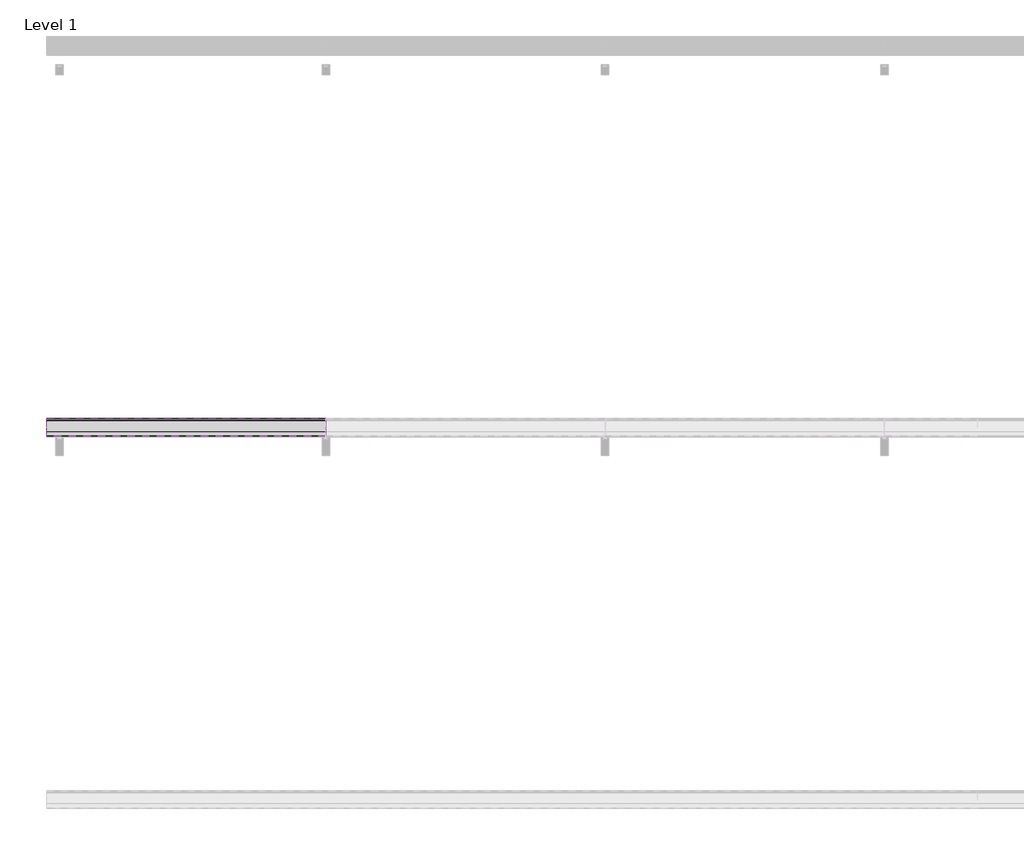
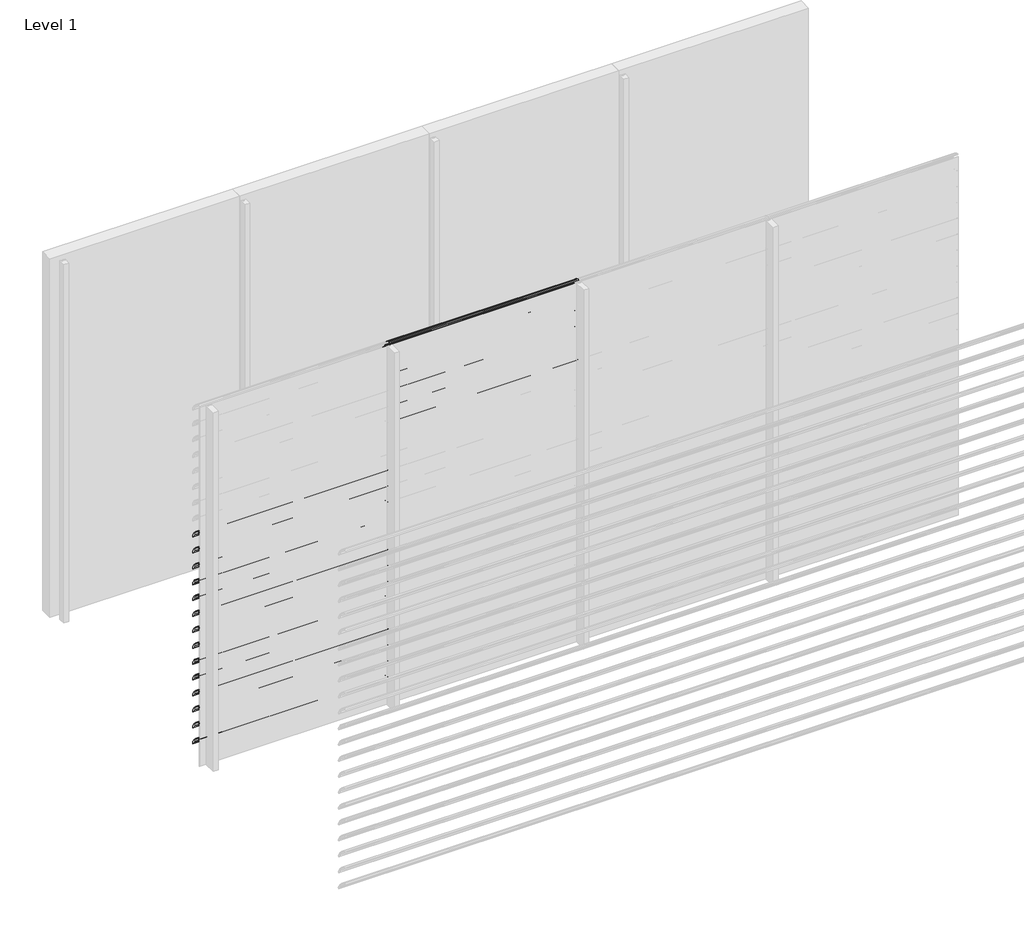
# One storey, part 21 of 57: 20 proxies.
"""IFC4 building model written with IfcOpenShell, lengths in millimetres."""

from ifc_helpers import new_model, si_unit, point, frame, frame_2d, origin, place, context, project, spatial, polyline, circle_curve, trimmed, segment, composite_curve, outline, extrude, element, save

model = new_model("IFC4")

# Units and contexts
model_context = context("Model", 3, world=origin())
ifc_project = project(units=[si_unit("LENGTHUNIT", "METRE", prefix="MILLI")], contexts=[model_context])

# Site, building, storey
site = spatial("IfcSite", under=ifc_project)
building = spatial("IfcBuilding", under=site)
storey = spatial("IfcBuildingStorey", under=building, Name="Level 1", Elevation=0.0)

# Proxies
placement = place(None, origin())
element("IfcBuildingElementProxy", 1, Name="Wall Sweeps", at=placement, inside=storey, context=model_context, shape_type="SweptSolid", body=[
    extrude(outline(composite_curve([segment(trimmed(circle_curve(frame_2d((-35993.7822526, 1952.4913792)), 4.2177474), [point((-35989.6985606, 1953.5462976))], [point((-35993.7822526, 1956.7091266))], False, "CARTESIAN"), True, "CONTINUOUS"), segment(trimmed(circle_curve(frame_2d((-36018.7150834, 1854.2536312)), 105.4456002), [point((-35993.7822526, 1956.7091266))], [point((-35971.7914298, 1948.6832099))], False, "CARTESIAN"), True, "CONTINUOUS"), segment(trimmed(circle_curve(frame_2d((-36061.7199745, 1800.0352476)), 173.7335887), [point((-35971.7914298, 1948.6832099))], [point((-35913.0720121, 1889.9637922))], False, "CARTESIAN"), True, "CONTINUOUS"), segment(trimmed(circle_curve(frame_2d((-36004.9297178, 1838.1860314)), 105.4456002), [point((-35913.0720121, 1889.9637922))], [point((-35903.6249616, 1867.4455765))], False, "CARTESIAN"), True, "CONTINUOUS"), segment(trimmed(circle_curve(frame_2d((-35907.809737, 1866.3307305)), 4.3307305), [point((-35903.6249616, 1867.4455765))], [point((-35909.0769196, 1862.189538))], False, "CARTESIAN"), True, "CONTINUOUS"), segment(polyline([(-35909.0769196, 1862.189538), (-35934.7401984, 1886.9722783)]), True, "CONTINUOUS"), segment(trimmed(circle_curve(frame_2d((-35931.3879574, 1889.2977626)), 4.079877), [point((-35934.7401984, 1886.9722783))], [point((-35930.7310597, 1893.3244091))], False, "CARTESIAN"), True, "CONTINUOUS"), segment(trimmed(circle_curve(frame_2d((-36014.6665585, 1871.2544323)), 86.7885467), [point((-35930.7310597, 1893.3244091))], [point((-35942.3028351, 1919.1683485))], True, "CARTESIAN"), True, "CONTINUOUS"), segment(polyline([(-35942.3028351, 1919.1683485), (-35940.7230099, 1921.9046861)]), True, "CONTINUOUS"), segment(trimmed(circle_curve(frame_2d((-36061.7199745, 1800.0352476)), 171.7335887), [point((-35940.7230099, 1921.9046861))], [point((-35972.7555872, 1946.9289618))], True, "CARTESIAN"), True, "CONTINUOUS"), segment(trimmed(circle_curve(frame_2d((-36018.7150834, 1854.2536312)), 103.4456002), [point((-35972.7555872, 1946.9289618))], [point((-35989.6985606, 1953.5462976))], True, "CARTESIAN"), True, "CONTINUOUS")], self_intersect=False)), frame((0.0, 0.0, 0.0), z_axis=(1.0, 0.0, 0.0), x_axis=(0.0, 1.0, 0.0)), (0.0, 0.0, 1.0), 1500.0),
])
element("IfcBuildingElementProxy", 2, Name="Wall Sweeps", at=placement, inside=storey, context=model_context, shape_type="SweptSolid", body=[
    extrude(outline(composite_curve([segment(trimmed(circle_curve(frame_2d((-35993.7822526, 1819.4913792)), 4.2177474), [point((-35989.6985606, 1820.5462976))], [point((-35993.7822526, 1823.7091266))], False, "CARTESIAN"), True, "CONTINUOUS"), segment(trimmed(circle_curve(frame_2d((-36018.7150834, 1721.2536312)), 105.4456002), [point((-35993.7822526, 1823.7091266))], [point((-35971.7914298, 1815.6832099))], False, "CARTESIAN"), True, "CONTINUOUS"), segment(trimmed(circle_curve(frame_2d((-36061.7199745, 1667.0352476)), 173.7335887), [point((-35971.7914298, 1815.6832099))], [point((-35913.0720121, 1756.9637922))], False, "CARTESIAN"), True, "CONTINUOUS"), segment(trimmed(circle_curve(frame_2d((-36004.9297178, 1705.1860314)), 105.4456002), [point((-35913.0720121, 1756.9637922))], [point((-35903.6249616, 1734.4455765))], False, "CARTESIAN"), True, "CONTINUOUS"), segment(trimmed(circle_curve(frame_2d((-35907.809737, 1733.3307305)), 4.3307305), [point((-35903.6249616, 1734.4455765))], [point((-35909.0769196, 1729.189538))], False, "CARTESIAN"), True, "CONTINUOUS"), segment(polyline([(-35909.0769196, 1729.189538), (-35934.7401984, 1753.9722783)]), True, "CONTINUOUS"), segment(trimmed(circle_curve(frame_2d((-35931.3879574, 1756.2977626)), 4.079877), [point((-35934.7401984, 1753.9722783))], [point((-35930.7310597, 1760.3244091))], False, "CARTESIAN"), True, "CONTINUOUS"), segment(trimmed(circle_curve(frame_2d((-36014.6665585, 1738.2544323)), 86.7885467), [point((-35930.7310597, 1760.3244091))], [point((-35942.3028351, 1786.1683485))], True, "CARTESIAN"), True, "CONTINUOUS"), segment(polyline([(-35942.3028351, 1786.1683485), (-35940.7230099, 1788.9046861)]), True, "CONTINUOUS"), segment(trimmed(circle_curve(frame_2d((-36061.7199745, 1667.0352476)), 171.7335887), [point((-35940.7230099, 1788.9046861))], [point((-35972.7555872, 1813.9289618))], True, "CARTESIAN"), True, "CONTINUOUS"), segment(trimmed(circle_curve(frame_2d((-36018.7150834, 1721.2536312)), 103.4456002), [point((-35972.7555872, 1813.9289618))], [point((-35989.6985606, 1820.5462976))], True, "CARTESIAN"), True, "CONTINUOUS")], self_intersect=False)), frame((0.0, 0.0, 0.0), z_axis=(1.0, 0.0, 0.0), x_axis=(0.0, 1.0, 0.0)), (0.0, 0.0, 1.0), 1500.0),
])
element("IfcBuildingElementProxy", 3, Name="Wall Sweeps", at=placement, inside=storey, context=model_context, shape_type="SweptSolid", body=[
    extrude(outline(composite_curve([segment(trimmed(circle_curve(frame_2d((-35993.7822526, 1686.4913792)), 4.2177474), [point((-35989.6985606, 1687.5462976))], [point((-35993.7822526, 1690.7091266))], False, "CARTESIAN"), True, "CONTINUOUS"), segment(trimmed(circle_curve(frame_2d((-36018.7150834, 1588.2536312)), 105.4456002), [point((-35993.7822526, 1690.7091266))], [point((-35971.7914298, 1682.6832099))], False, "CARTESIAN"), True, "CONTINUOUS"), segment(trimmed(circle_curve(frame_2d((-36061.7199745, 1534.0352476)), 173.7335887), [point((-35971.7914298, 1682.6832099))], [point((-35913.0720121, 1623.9637922))], False, "CARTESIAN"), True, "CONTINUOUS"), segment(trimmed(circle_curve(frame_2d((-36004.9297178, 1572.1860314)), 105.4456002), [point((-35913.0720121, 1623.9637922))], [point((-35903.6249616, 1601.4455765))], False, "CARTESIAN"), True, "CONTINUOUS"), segment(trimmed(circle_curve(frame_2d((-35907.809737, 1600.3307305)), 4.3307305), [point((-35903.6249616, 1601.4455765))], [point((-35909.0769196, 1596.189538))], False, "CARTESIAN"), True, "CONTINUOUS"), segment(polyline([(-35909.0769196, 1596.189538), (-35934.7401984, 1620.9722783)]), True, "CONTINUOUS"), segment(trimmed(circle_curve(frame_2d((-35931.3879574, 1623.2977626)), 4.079877), [point((-35934.7401984, 1620.9722783))], [point((-35930.7310597, 1627.3244091))], False, "CARTESIAN"), True, "CONTINUOUS"), segment(trimmed(circle_curve(frame_2d((-36014.6665585, 1605.2544323)), 86.7885467), [point((-35930.7310597, 1627.3244091))], [point((-35942.3028351, 1653.1683485))], True, "CARTESIAN"), True, "CONTINUOUS"), segment(polyline([(-35942.3028351, 1653.1683485), (-35940.7230099, 1655.9046861)]), True, "CONTINUOUS"), segment(trimmed(circle_curve(frame_2d((-36061.7199745, 1534.0352476)), 171.7335887), [point((-35940.7230099, 1655.9046861))], [point((-35972.7555872, 1680.9289618))], True, "CARTESIAN"), True, "CONTINUOUS"), segment(trimmed(circle_curve(frame_2d((-36018.7150834, 1588.2536312)), 103.4456002), [point((-35972.7555872, 1680.9289618))], [point((-35989.6985606, 1687.5462976))], True, "CARTESIAN"), True, "CONTINUOUS")], self_intersect=False)), frame((0.0, 0.0, 0.0), z_axis=(1.0, 0.0, 0.0), x_axis=(0.0, 1.0, 0.0)), (0.0, 0.0, 1.0), 1500.0),
])
element("IfcBuildingElementProxy", 4, Name="Wall Sweeps", at=placement, inside=storey, context=model_context, shape_type="SweptSolid", body=[
    extrude(outline(composite_curve([segment(trimmed(circle_curve(frame_2d((-35993.7822526, 1553.4913792)), 4.2177474), [point((-35989.6985606, 1554.5462976))], [point((-35993.7822526, 1557.7091266))], False, "CARTESIAN"), True, "CONTINUOUS"), segment(trimmed(circle_curve(frame_2d((-36018.7150834, 1455.2536312)), 105.4456002), [point((-35993.7822526, 1557.7091266))], [point((-35971.7914298, 1549.6832099))], False, "CARTESIAN"), True, "CONTINUOUS"), segment(trimmed(circle_curve(frame_2d((-36061.7199745, 1401.0352476)), 173.7335887), [point((-35971.7914298, 1549.6832099))], [point((-35913.0720121, 1490.9637922))], False, "CARTESIAN"), True, "CONTINUOUS"), segment(trimmed(circle_curve(frame_2d((-36004.9297178, 1439.1860314)), 105.4456002), [point((-35913.0720121, 1490.9637922))], [point((-35903.6249616, 1468.4455765))], False, "CARTESIAN"), True, "CONTINUOUS"), segment(trimmed(circle_curve(frame_2d((-35907.809737, 1467.3307305)), 4.3307305), [point((-35903.6249616, 1468.4455765))], [point((-35909.0769196, 1463.189538))], False, "CARTESIAN"), True, "CONTINUOUS"), segment(polyline([(-35909.0769196, 1463.189538), (-35934.7401984, 1487.9722783)]), True, "CONTINUOUS"), segment(trimmed(circle_curve(frame_2d((-35931.3879574, 1490.2977626)), 4.079877), [point((-35934.7401984, 1487.9722783))], [point((-35930.7310597, 1494.3244091))], False, "CARTESIAN"), True, "CONTINUOUS"), segment(trimmed(circle_curve(frame_2d((-36014.6665585, 1472.2544323)), 86.7885467), [point((-35930.7310597, 1494.3244091))], [point((-35942.3028351, 1520.1683485))], True, "CARTESIAN"), True, "CONTINUOUS"), segment(polyline([(-35942.3028351, 1520.1683485), (-35940.7230099, 1522.9046861)]), True, "CONTINUOUS"), segment(trimmed(circle_curve(frame_2d((-36061.7199745, 1401.0352476)), 171.7335887), [point((-35940.7230099, 1522.9046861))], [point((-35972.7555872, 1547.9289618))], True, "CARTESIAN"), True, "CONTINUOUS"), segment(trimmed(circle_curve(frame_2d((-36018.7150834, 1455.2536312)), 103.4456002), [point((-35972.7555872, 1547.9289618))], [point((-35989.6985606, 1554.5462976))], True, "CARTESIAN"), True, "CONTINUOUS")], self_intersect=False)), frame((0.0, 0.0, 0.0), z_axis=(1.0, 0.0, 0.0), x_axis=(0.0, 1.0, 0.0)), (0.0, 0.0, 1.0), 1500.0),
])
element("IfcBuildingElementProxy", 5, Name="Wall Sweeps", at=placement, inside=storey, context=model_context, shape_type="SweptSolid", body=[
    extrude(outline(composite_curve([segment(trimmed(circle_curve(frame_2d((-35993.7822526, 1420.4913792)), 4.2177474), [point((-35989.6985606, 1421.5462976))], [point((-35993.7822526, 1424.7091266))], False, "CARTESIAN"), True, "CONTINUOUS"), segment(trimmed(circle_curve(frame_2d((-36018.7150834, 1322.2536312)), 105.4456002), [point((-35993.7822526, 1424.7091266))], [point((-35971.7914298, 1416.6832099))], False, "CARTESIAN"), True, "CONTINUOUS"), segment(trimmed(circle_curve(frame_2d((-36061.7199745, 1268.0352476)), 173.7335887), [point((-35971.7914298, 1416.6832099))], [point((-35913.0720121, 1357.9637922))], False, "CARTESIAN"), True, "CONTINUOUS"), segment(trimmed(circle_curve(frame_2d((-36004.9297178, 1306.1860314)), 105.4456002), [point((-35913.0720121, 1357.9637922))], [point((-35903.6249616, 1335.4455765))], False, "CARTESIAN"), True, "CONTINUOUS"), segment(trimmed(circle_curve(frame_2d((-35907.809737, 1334.3307305)), 4.3307305), [point((-35903.6249616, 1335.4455765))], [point((-35909.0769196, 1330.189538))], False, "CARTESIAN"), True, "CONTINUOUS"), segment(polyline([(-35909.0769196, 1330.189538), (-35934.7401984, 1354.9722783)]), True, "CONTINUOUS"), segment(trimmed(circle_curve(frame_2d((-35931.3879574, 1357.2977626)), 4.079877), [point((-35934.7401984, 1354.9722783))], [point((-35930.7310597, 1361.3244091))], False, "CARTESIAN"), True, "CONTINUOUS"), segment(trimmed(circle_curve(frame_2d((-36014.6665585, 1339.2544323)), 86.7885467), [point((-35930.7310597, 1361.3244091))], [point((-35942.3028351, 1387.1683485))], True, "CARTESIAN"), True, "CONTINUOUS"), segment(polyline([(-35942.3028351, 1387.1683485), (-35940.7230099, 1389.9046861)]), True, "CONTINUOUS"), segment(trimmed(circle_curve(frame_2d((-36061.7199745, 1268.0352476)), 171.7335887), [point((-35940.7230099, 1389.9046861))], [point((-35972.7555872, 1414.9289618))], True, "CARTESIAN"), True, "CONTINUOUS"), segment(trimmed(circle_curve(frame_2d((-36018.7150834, 1322.2536312)), 103.4456002), [point((-35972.7555872, 1414.9289618))], [point((-35989.6985606, 1421.5462976))], True, "CARTESIAN"), True, "CONTINUOUS")], self_intersect=False)), frame((0.0, 0.0, 0.0), z_axis=(1.0, 0.0, 0.0), x_axis=(0.0, 1.0, 0.0)), (0.0, 0.0, 1.0), 1500.0),
])
element("IfcBuildingElementProxy", 6, Name="Wall Sweeps", at=placement, inside=storey, context=model_context, shape_type="SweptSolid", body=[
    extrude(outline(composite_curve([segment(trimmed(circle_curve(frame_2d((-35993.7822526, 1287.4913792)), 4.2177474), [point((-35989.6985606, 1288.5462976))], [point((-35993.7822526, 1291.7091266))], False, "CARTESIAN"), True, "CONTINUOUS"), segment(trimmed(circle_curve(frame_2d((-36018.7150834, 1189.2536312)), 105.4456002), [point((-35993.7822526, 1291.7091266))], [point((-35971.7914298, 1283.6832099))], False, "CARTESIAN"), True, "CONTINUOUS"), segment(trimmed(circle_curve(frame_2d((-36061.7199745, 1135.0352476)), 173.7335887), [point((-35971.7914298, 1283.6832099))], [point((-35913.0720121, 1224.9637922))], False, "CARTESIAN"), True, "CONTINUOUS"), segment(trimmed(circle_curve(frame_2d((-36004.9297178, 1173.1860314)), 105.4456002), [point((-35913.0720121, 1224.9637922))], [point((-35903.6249616, 1202.4455765))], False, "CARTESIAN"), True, "CONTINUOUS"), segment(trimmed(circle_curve(frame_2d((-35907.809737, 1201.3307305)), 4.3307305), [point((-35903.6249616, 1202.4455765))], [point((-35909.0769196, 1197.189538))], False, "CARTESIAN"), True, "CONTINUOUS"), segment(polyline([(-35909.0769196, 1197.189538), (-35934.7401984, 1221.9722783)]), True, "CONTINUOUS"), segment(trimmed(circle_curve(frame_2d((-35931.3879574, 1224.2977626)), 4.079877), [point((-35934.7401984, 1221.9722783))], [point((-35930.7310597, 1228.3244091))], False, "CARTESIAN"), True, "CONTINUOUS"), segment(trimmed(circle_curve(frame_2d((-36014.6665585, 1206.2544323)), 86.7885467), [point((-35930.7310597, 1228.3244091))], [point((-35942.3028351, 1254.1683485))], True, "CARTESIAN"), True, "CONTINUOUS"), segment(polyline([(-35942.3028351, 1254.1683485), (-35940.7230099, 1256.9046861)]), True, "CONTINUOUS"), segment(trimmed(circle_curve(frame_2d((-36061.7199745, 1135.0352476)), 171.7335887), [point((-35940.7230099, 1256.9046861))], [point((-35972.7555872, 1281.9289618))], True, "CARTESIAN"), True, "CONTINUOUS"), segment(trimmed(circle_curve(frame_2d((-36018.7150834, 1189.2536312)), 103.4456002), [point((-35972.7555872, 1281.9289618))], [point((-35989.6985606, 1288.5462976))], True, "CARTESIAN"), True, "CONTINUOUS")], self_intersect=False)), frame((0.0, 0.0, 0.0), z_axis=(1.0, 0.0, 0.0), x_axis=(0.0, 1.0, 0.0)), (0.0, 0.0, 1.0), 1500.0),
])
element("IfcBuildingElementProxy", 7, Name="Wall Sweeps", at=placement, inside=storey, context=model_context, shape_type="SweptSolid", body=[
    extrude(outline(composite_curve([segment(trimmed(circle_curve(frame_2d((-35993.7822526, 1154.4913792)), 4.2177474), [point((-35989.6985606, 1155.5462976))], [point((-35993.7822526, 1158.7091266))], False, "CARTESIAN"), True, "CONTINUOUS"), segment(trimmed(circle_curve(frame_2d((-36018.7150834, 1056.2536312)), 105.4456002), [point((-35993.7822526, 1158.7091266))], [point((-35971.7914298, 1150.6832099))], False, "CARTESIAN"), True, "CONTINUOUS"), segment(trimmed(circle_curve(frame_2d((-36061.7199745, 1002.0352476)), 173.7335887), [point((-35971.7914298, 1150.6832099))], [point((-35913.0720121, 1091.9637922))], False, "CARTESIAN"), True, "CONTINUOUS"), segment(trimmed(circle_curve(frame_2d((-36004.9297178, 1040.1860314)), 105.4456002), [point((-35913.0720121, 1091.9637922))], [point((-35903.6249616, 1069.4455765))], False, "CARTESIAN"), True, "CONTINUOUS"), segment(trimmed(circle_curve(frame_2d((-35907.809737, 1068.3307305)), 4.3307305), [point((-35903.6249616, 1069.4455765))], [point((-35909.0769196, 1064.189538))], False, "CARTESIAN"), True, "CONTINUOUS"), segment(polyline([(-35909.0769196, 1064.189538), (-35934.7401984, 1088.9722783)]), True, "CONTINUOUS"), segment(trimmed(circle_curve(frame_2d((-35931.3879574, 1091.2977626)), 4.079877), [point((-35934.7401984, 1088.9722783))], [point((-35930.7310597, 1095.3244091))], False, "CARTESIAN"), True, "CONTINUOUS"), segment(trimmed(circle_curve(frame_2d((-36014.6665585, 1073.2544323)), 86.7885467), [point((-35930.7310597, 1095.3244091))], [point((-35942.3028351, 1121.1683485))], True, "CARTESIAN"), True, "CONTINUOUS"), segment(polyline([(-35942.3028351, 1121.1683485), (-35940.7230099, 1123.9046861)]), True, "CONTINUOUS"), segment(trimmed(circle_curve(frame_2d((-36061.7199745, 1002.0352476)), 171.7335887), [point((-35940.7230099, 1123.9046861))], [point((-35972.7555872, 1148.9289618))], True, "CARTESIAN"), True, "CONTINUOUS"), segment(trimmed(circle_curve(frame_2d((-36018.7150834, 1056.2536312)), 103.4456002), [point((-35972.7555872, 1148.9289618))], [point((-35989.6985606, 1155.5462976))], True, "CARTESIAN"), True, "CONTINUOUS")], self_intersect=False)), frame((0.0, 0.0, 0.0), z_axis=(1.0, 0.0, 0.0), x_axis=(0.0, 1.0, 0.0)), (0.0, 0.0, 1.0), 1500.0),
])
element("IfcBuildingElementProxy", 8, Name="Wall Sweeps", at=placement, inside=storey, context=model_context, shape_type="SweptSolid", body=[
    extrude(outline(composite_curve([segment(trimmed(circle_curve(frame_2d((-35993.7822526, 1021.4913792)), 4.2177474), [point((-35989.6985606, 1022.5462976))], [point((-35993.7822526, 1025.7091266))], False, "CARTESIAN"), True, "CONTINUOUS"), segment(trimmed(circle_curve(frame_2d((-36018.7150834, 923.2536312)), 105.4456002), [point((-35993.7822526, 1025.7091266))], [point((-35971.7914298, 1017.6832099))], False, "CARTESIAN"), True, "CONTINUOUS"), segment(trimmed(circle_curve(frame_2d((-36061.7199745, 869.0352476)), 173.7335887), [point((-35971.7914298, 1017.6832099))], [point((-35913.0720121, 958.9637922))], False, "CARTESIAN"), True, "CONTINUOUS"), segment(trimmed(circle_curve(frame_2d((-36004.9297178, 907.1860314)), 105.4456002), [point((-35913.0720121, 958.9637922))], [point((-35903.6249616, 936.4455765))], False, "CARTESIAN"), True, "CONTINUOUS"), segment(trimmed(circle_curve(frame_2d((-35907.809737, 935.3307305)), 4.3307305), [point((-35903.6249616, 936.4455765))], [point((-35909.0769196, 931.189538))], False, "CARTESIAN"), True, "CONTINUOUS"), segment(polyline([(-35909.0769196, 931.189538), (-35934.7401984, 955.9722783)]), True, "CONTINUOUS"), segment(trimmed(circle_curve(frame_2d((-35931.3879574, 958.2977626)), 4.079877), [point((-35934.7401984, 955.9722783))], [point((-35930.7310597, 962.3244091))], False, "CARTESIAN"), True, "CONTINUOUS"), segment(trimmed(circle_curve(frame_2d((-36014.6665585, 940.2544323)), 86.7885467), [point((-35930.7310597, 962.3244091))], [point((-35942.3028351, 988.1683485))], True, "CARTESIAN"), True, "CONTINUOUS"), segment(polyline([(-35942.3028351, 988.1683485), (-35940.7230099, 990.9046861)]), True, "CONTINUOUS"), segment(trimmed(circle_curve(frame_2d((-36061.7199745, 869.0352476)), 171.7335887), [point((-35940.7230099, 990.9046861))], [point((-35972.7555872, 1015.9289618))], True, "CARTESIAN"), True, "CONTINUOUS"), segment(trimmed(circle_curve(frame_2d((-36018.7150834, 923.2536312)), 103.4456002), [point((-35972.7555872, 1015.9289618))], [point((-35989.6985606, 1022.5462976))], True, "CARTESIAN"), True, "CONTINUOUS")], self_intersect=False)), frame((0.0, 0.0, 0.0), z_axis=(1.0, 0.0, 0.0), x_axis=(0.0, 1.0, 0.0)), (0.0, 0.0, 1.0), 1500.0),
])
element("IfcBuildingElementProxy", 9, Name="Wall Sweeps", at=placement, inside=storey, context=model_context, shape_type="SweptSolid", body=[
    extrude(outline(composite_curve([segment(trimmed(circle_curve(frame_2d((-35993.7822526, 888.4913792)), 4.2177474), [point((-35989.6985606, 889.5462976))], [point((-35993.7822526, 892.7091266))], False, "CARTESIAN"), True, "CONTINUOUS"), segment(trimmed(circle_curve(frame_2d((-36018.7150834, 790.2536312)), 105.4456002), [point((-35993.7822526, 892.7091266))], [point((-35971.7914298, 884.6832099))], False, "CARTESIAN"), True, "CONTINUOUS"), segment(trimmed(circle_curve(frame_2d((-36061.7199745, 736.0352476)), 173.7335887), [point((-35971.7914298, 884.6832099))], [point((-35913.0720121, 825.9637922))], False, "CARTESIAN"), True, "CONTINUOUS"), segment(trimmed(circle_curve(frame_2d((-36004.9297178, 774.1860314)), 105.4456002), [point((-35913.0720121, 825.9637922))], [point((-35903.6249616, 803.4455765))], False, "CARTESIAN"), True, "CONTINUOUS"), segment(trimmed(circle_curve(frame_2d((-35907.809737, 802.3307305)), 4.3307305), [point((-35903.6249616, 803.4455765))], [point((-35909.0769196, 798.189538))], False, "CARTESIAN"), True, "CONTINUOUS"), segment(polyline([(-35909.0769196, 798.189538), (-35934.7401984, 822.9722783)]), True, "CONTINUOUS"), segment(trimmed(circle_curve(frame_2d((-35931.3879574, 825.2977626)), 4.079877), [point((-35934.7401984, 822.9722783))], [point((-35930.7310597, 829.3244091))], False, "CARTESIAN"), True, "CONTINUOUS"), segment(trimmed(circle_curve(frame_2d((-36014.6665585, 807.2544323)), 86.7885467), [point((-35930.7310597, 829.3244091))], [point((-35942.3028351, 855.1683485))], True, "CARTESIAN"), True, "CONTINUOUS"), segment(polyline([(-35942.3028351, 855.1683485), (-35940.7230099, 857.9046861)]), True, "CONTINUOUS"), segment(trimmed(circle_curve(frame_2d((-36061.7199745, 736.0352476)), 171.7335887), [point((-35940.7230099, 857.9046861))], [point((-35972.7555872, 882.9289618))], True, "CARTESIAN"), True, "CONTINUOUS"), segment(trimmed(circle_curve(frame_2d((-36018.7150834, 790.2536312)), 103.4456002), [point((-35972.7555872, 882.9289618))], [point((-35989.6985606, 889.5462976))], True, "CARTESIAN"), True, "CONTINUOUS")], self_intersect=False)), frame((0.0, 0.0, 0.0), z_axis=(1.0, 0.0, 0.0), x_axis=(0.0, 1.0, 0.0)), (0.0, 0.0, 1.0), 1500.0),
])
element("IfcBuildingElementProxy", 10, Name="Wall Sweeps", at=placement, inside=storey, context=model_context, shape_type="SweptSolid", body=[
    extrude(outline(composite_curve([segment(trimmed(circle_curve(frame_2d((-35993.7822526, 755.4913792)), 4.2177474), [point((-35989.6985606, 756.5462976))], [point((-35993.7822526, 759.7091266))], False, "CARTESIAN"), True, "CONTINUOUS"), segment(trimmed(circle_curve(frame_2d((-36018.7150834, 657.2536312)), 105.4456002), [point((-35993.7822526, 759.7091266))], [point((-35971.7914298, 751.6832099))], False, "CARTESIAN"), True, "CONTINUOUS"), segment(trimmed(circle_curve(frame_2d((-36061.7199745, 603.0352476)), 173.7335887), [point((-35971.7914298, 751.6832099))], [point((-35913.0720121, 692.9637922))], False, "CARTESIAN"), True, "CONTINUOUS"), segment(trimmed(circle_curve(frame_2d((-36004.9297178, 641.1860314)), 105.4456002), [point((-35913.0720121, 692.9637922))], [point((-35903.6249616, 670.4455765))], False, "CARTESIAN"), True, "CONTINUOUS"), segment(trimmed(circle_curve(frame_2d((-35907.809737, 669.3307305)), 4.3307305), [point((-35903.6249616, 670.4455765))], [point((-35909.0769196, 665.189538))], False, "CARTESIAN"), True, "CONTINUOUS"), segment(polyline([(-35909.0769196, 665.189538), (-35934.7401984, 689.9722783)]), True, "CONTINUOUS"), segment(trimmed(circle_curve(frame_2d((-35931.3879574, 692.2977626)), 4.079877), [point((-35934.7401984, 689.9722783))], [point((-35930.7310597, 696.3244091))], False, "CARTESIAN"), True, "CONTINUOUS"), segment(trimmed(circle_curve(frame_2d((-36014.6665585, 674.2544323)), 86.7885467), [point((-35930.7310597, 696.3244091))], [point((-35942.3028351, 722.1683485))], True, "CARTESIAN"), True, "CONTINUOUS"), segment(polyline([(-35942.3028351, 722.1683485), (-35940.7230099, 724.9046861)]), True, "CONTINUOUS"), segment(trimmed(circle_curve(frame_2d((-36061.7199745, 603.0352476)), 171.7335887), [point((-35940.7230099, 724.9046861))], [point((-35972.7555872, 749.9289618))], True, "CARTESIAN"), True, "CONTINUOUS"), segment(trimmed(circle_curve(frame_2d((-36018.7150834, 657.2536312)), 103.4456002), [point((-35972.7555872, 749.9289618))], [point((-35989.6985606, 756.5462976))], True, "CARTESIAN"), True, "CONTINUOUS")], self_intersect=False)), frame((0.0, 0.0, 0.0), z_axis=(1.0, 0.0, 0.0), x_axis=(0.0, 1.0, 0.0)), (0.0, 0.0, 1.0), 1500.0),
])
element("IfcBuildingElementProxy", 11, Name="Wall Sweeps", at=placement, inside=storey, context=model_context, shape_type="SweptSolid", body=[
    extrude(outline(composite_curve([segment(trimmed(circle_curve(frame_2d((-35993.7822526, 622.4913792)), 4.2177474), [point((-35989.6985606, 623.5462976))], [point((-35993.7822526, 626.7091266))], False, "CARTESIAN"), True, "CONTINUOUS"), segment(trimmed(circle_curve(frame_2d((-36018.7150834, 524.2536312)), 105.4456002), [point((-35993.7822526, 626.7091266))], [point((-35971.7914298, 618.6832099))], False, "CARTESIAN"), True, "CONTINUOUS"), segment(trimmed(circle_curve(frame_2d((-36061.7199745, 470.0352476)), 173.7335887), [point((-35971.7914298, 618.6832099))], [point((-35913.0720121, 559.9637922))], False, "CARTESIAN"), True, "CONTINUOUS"), segment(trimmed(circle_curve(frame_2d((-36004.9297178, 508.1860314)), 105.4456002), [point((-35913.0720121, 559.9637922))], [point((-35903.6249616, 537.4455765))], False, "CARTESIAN"), True, "CONTINUOUS"), segment(trimmed(circle_curve(frame_2d((-35907.809737, 536.3307305)), 4.3307305), [point((-35903.6249616, 537.4455765))], [point((-35909.0769196, 532.189538))], False, "CARTESIAN"), True, "CONTINUOUS"), segment(polyline([(-35909.0769196, 532.189538), (-35934.7401984, 556.9722783)]), True, "CONTINUOUS"), segment(trimmed(circle_curve(frame_2d((-35931.3879574, 559.2977626)), 4.079877), [point((-35934.7401984, 556.9722783))], [point((-35930.7310597, 563.3244091))], False, "CARTESIAN"), True, "CONTINUOUS"), segment(trimmed(circle_curve(frame_2d((-36014.6665585, 541.2544323)), 86.7885467), [point((-35930.7310597, 563.3244091))], [point((-35942.3028351, 589.1683485))], True, "CARTESIAN"), True, "CONTINUOUS"), segment(polyline([(-35942.3028351, 589.1683485), (-35940.7230099, 591.9046861)]), True, "CONTINUOUS"), segment(trimmed(circle_curve(frame_2d((-36061.7199745, 470.0352476)), 171.7335887), [point((-35940.7230099, 591.9046861))], [point((-35972.7555872, 616.9289618))], True, "CARTESIAN"), True, "CONTINUOUS"), segment(trimmed(circle_curve(frame_2d((-36018.7150834, 524.2536312)), 103.4456002), [point((-35972.7555872, 616.9289618))], [point((-35989.6985606, 623.5462976))], True, "CARTESIAN"), True, "CONTINUOUS")], self_intersect=False)), frame((0.0, 0.0, 0.0), z_axis=(1.0, 0.0, 0.0), x_axis=(0.0, 1.0, 0.0)), (0.0, 0.0, 1.0), 1500.0),
])
element("IfcBuildingElementProxy", 12, Name="Wall Sweeps", at=placement, inside=storey, context=model_context, shape_type="SweptSolid", body=[
    extrude(outline(composite_curve([segment(trimmed(circle_curve(frame_2d((-35993.7822526, 489.4913792)), 4.2177474), [point((-35989.6985606, 490.5462976))], [point((-35993.7822526, 493.7091266))], False, "CARTESIAN"), True, "CONTINUOUS"), segment(trimmed(circle_curve(frame_2d((-36018.7150834, 391.2536312)), 105.4456002), [point((-35993.7822526, 493.7091266))], [point((-35971.7914298, 485.6832099))], False, "CARTESIAN"), True, "CONTINUOUS"), segment(trimmed(circle_curve(frame_2d((-36061.7199745, 337.0352476)), 173.7335887), [point((-35971.7914298, 485.6832099))], [point((-35913.0720121, 426.9637922))], False, "CARTESIAN"), True, "CONTINUOUS"), segment(trimmed(circle_curve(frame_2d((-36004.9297178, 375.1860314)), 105.4456002), [point((-35913.0720121, 426.9637922))], [point((-35903.6249616, 404.4455765))], False, "CARTESIAN"), True, "CONTINUOUS"), segment(trimmed(circle_curve(frame_2d((-35907.809737, 403.3307305)), 4.3307305), [point((-35903.6249616, 404.4455765))], [point((-35909.0769196, 399.189538))], False, "CARTESIAN"), True, "CONTINUOUS"), segment(polyline([(-35909.0769196, 399.189538), (-35934.7401984, 423.9722783)]), True, "CONTINUOUS"), segment(trimmed(circle_curve(frame_2d((-35931.3879574, 426.2977626)), 4.079877), [point((-35934.7401984, 423.9722783))], [point((-35930.7310597, 430.3244091))], False, "CARTESIAN"), True, "CONTINUOUS"), segment(trimmed(circle_curve(frame_2d((-36014.6665585, 408.2544323)), 86.7885467), [point((-35930.7310597, 430.3244091))], [point((-35942.3028351, 456.1683485))], True, "CARTESIAN"), True, "CONTINUOUS"), segment(polyline([(-35942.3028351, 456.1683485), (-35940.7230099, 458.9046861)]), True, "CONTINUOUS"), segment(trimmed(circle_curve(frame_2d((-36061.7199745, 337.0352476)), 171.7335887), [point((-35940.7230099, 458.9046861))], [point((-35972.7555872, 483.9289618))], True, "CARTESIAN"), True, "CONTINUOUS"), segment(trimmed(circle_curve(frame_2d((-36018.7150834, 391.2536312)), 103.4456002), [point((-35972.7555872, 483.9289618))], [point((-35989.6985606, 490.5462976))], True, "CARTESIAN"), True, "CONTINUOUS")], self_intersect=False)), frame((0.0, 0.0, 0.0), z_axis=(1.0, 0.0, 0.0), x_axis=(0.0, 1.0, 0.0)), (0.0, 0.0, 1.0), 1500.0),
])
element("IfcBuildingElementProxy", 13, Name="Wall Sweeps", at=placement, inside=storey, context=model_context, shape_type="SweptSolid", body=[
    extrude(outline(composite_curve([segment(trimmed(circle_curve(frame_2d((-35993.7822526, 356.4913792)), 4.2177474), [point((-35989.6985606, 357.5462976))], [point((-35993.7822526, 360.7091266))], False, "CARTESIAN"), True, "CONTINUOUS"), segment(trimmed(circle_curve(frame_2d((-36018.7150834, 258.2536312)), 105.4456002), [point((-35993.7822526, 360.7091266))], [point((-35971.7914298, 352.6832099))], False, "CARTESIAN"), True, "CONTINUOUS"), segment(trimmed(circle_curve(frame_2d((-36061.7199745, 204.0352476)), 173.7335887), [point((-35971.7914298, 352.6832099))], [point((-35913.0720121, 293.9637922))], False, "CARTESIAN"), True, "CONTINUOUS"), segment(trimmed(circle_curve(frame_2d((-36004.9297178, 242.1860314)), 105.4456002), [point((-35913.0720121, 293.9637922))], [point((-35903.6249616, 271.4455765))], False, "CARTESIAN"), True, "CONTINUOUS"), segment(trimmed(circle_curve(frame_2d((-35907.809737, 270.3307305)), 4.3307305), [point((-35903.6249616, 271.4455765))], [point((-35909.0769196, 266.189538))], False, "CARTESIAN"), True, "CONTINUOUS"), segment(polyline([(-35909.0769196, 266.189538), (-35934.7401984, 290.9722783)]), True, "CONTINUOUS"), segment(trimmed(circle_curve(frame_2d((-35931.3879574, 293.2977626)), 4.079877), [point((-35934.7401984, 290.9722783))], [point((-35930.7310597, 297.3244091))], False, "CARTESIAN"), True, "CONTINUOUS"), segment(trimmed(circle_curve(frame_2d((-36014.6665585, 275.2544323)), 86.7885467), [point((-35930.7310597, 297.3244091))], [point((-35942.3028351, 323.1683485))], True, "CARTESIAN"), True, "CONTINUOUS"), segment(polyline([(-35942.3028351, 323.1683485), (-35940.7230099, 325.9046861)]), True, "CONTINUOUS"), segment(trimmed(circle_curve(frame_2d((-36061.7199745, 204.0352476)), 171.7335887), [point((-35940.7230099, 325.9046861))], [point((-35972.7555872, 350.9289618))], True, "CARTESIAN"), True, "CONTINUOUS"), segment(trimmed(circle_curve(frame_2d((-36018.7150834, 258.2536312)), 103.4456002), [point((-35972.7555872, 350.9289618))], [point((-35989.6985606, 357.5462976))], True, "CARTESIAN"), True, "CONTINUOUS")], self_intersect=False)), frame((0.0, 0.0, 0.0), z_axis=(1.0, 0.0, 0.0), x_axis=(0.0, 1.0, 0.0)), (0.0, 0.0, 1.0), 1500.0),
])
element("IfcBuildingElementProxy", 14, Name="Wall Sweeps", at=placement, inside=storey, context=model_context, shape_type="SweptSolid", body=[
    extrude(outline(composite_curve([segment(trimmed(circle_curve(frame_2d((-35993.7822526, 223.4913792)), 4.2177474), [point((-35989.6985606, 224.5462976))], [point((-35993.7822526, 227.7091266))], False, "CARTESIAN"), True, "CONTINUOUS"), segment(trimmed(circle_curve(frame_2d((-36018.7150834, 125.2536312)), 105.4456002), [point((-35993.7822526, 227.7091266))], [point((-35971.7914298, 219.6832099))], False, "CARTESIAN"), True, "CONTINUOUS"), segment(trimmed(circle_curve(frame_2d((-36061.7199745, 71.0352476)), 173.7335887), [point((-35971.7914298, 219.6832099))], [point((-35913.0720121, 160.9637922))], False, "CARTESIAN"), True, "CONTINUOUS"), segment(trimmed(circle_curve(frame_2d((-36004.9297178, 109.1860314)), 105.4456002), [point((-35913.0720121, 160.9637922))], [point((-35903.6249616, 138.4455765))], False, "CARTESIAN"), True, "CONTINUOUS"), segment(trimmed(circle_curve(frame_2d((-35907.809737, 137.3307305)), 4.3307305), [point((-35903.6249616, 138.4455765))], [point((-35909.0769196, 133.189538))], False, "CARTESIAN"), True, "CONTINUOUS"), segment(polyline([(-35909.0769196, 133.189538), (-35934.7401984, 157.9722783)]), True, "CONTINUOUS"), segment(trimmed(circle_curve(frame_2d((-35931.3879574, 160.2977626)), 4.079877), [point((-35934.7401984, 157.9722783))], [point((-35930.7310597, 164.3244091))], False, "CARTESIAN"), True, "CONTINUOUS"), segment(trimmed(circle_curve(frame_2d((-36014.6665585, 142.2544323)), 86.7885467), [point((-35930.7310597, 164.3244091))], [point((-35942.3028351, 190.1683485))], True, "CARTESIAN"), True, "CONTINUOUS"), segment(polyline([(-35942.3028351, 190.1683485), (-35940.7230099, 192.9046861)]), True, "CONTINUOUS"), segment(trimmed(circle_curve(frame_2d((-36061.7199745, 71.0352476)), 171.7335887), [point((-35940.7230099, 192.9046861))], [point((-35972.7555872, 217.9289618))], True, "CARTESIAN"), True, "CONTINUOUS"), segment(trimmed(circle_curve(frame_2d((-36018.7150834, 125.2536312)), 103.4456002), [point((-35972.7555872, 217.9289618))], [point((-35989.6985606, 224.5462976))], True, "CARTESIAN"), True, "CONTINUOUS")], self_intersect=False)), frame((0.0, 0.0, 0.0), z_axis=(1.0, 0.0, 0.0), x_axis=(0.0, 1.0, 0.0)), (0.0, 0.0, 1.0), 1500.0),
])
element("IfcBuildingElementProxy", 15, Name="Wall Sweeps", at=placement, inside=storey, context=model_context, shape_type="SweptSolid", body=[
    extrude(outline(composite_curve([segment(trimmed(circle_curve(frame_2d((-35993.7822526, 3016.4913792)), 4.2177474), [point((-35989.6985606, 3017.5462976))], [point((-35993.7822526, 3020.7091266))], False, "CARTESIAN"), True, "CONTINUOUS"), segment(trimmed(circle_curve(frame_2d((-36018.7150834, 2918.2536312)), 105.4456002), [point((-35993.7822526, 3020.7091266))], [point((-35971.7914298, 3012.6832099))], False, "CARTESIAN"), True, "CONTINUOUS"), segment(trimmed(circle_curve(frame_2d((-36061.7199745, 2864.0352476)), 173.7335887), [point((-35971.7914298, 3012.6832099))], [point((-35913.0720121, 2953.9637922))], False, "CARTESIAN"), True, "CONTINUOUS"), segment(trimmed(circle_curve(frame_2d((-36004.9297178, 2902.1860314)), 105.4456002), [point((-35913.0720121, 2953.9637922))], [point((-35903.6249616, 2931.4455765))], False, "CARTESIAN"), True, "CONTINUOUS"), segment(trimmed(circle_curve(frame_2d((-35907.809737, 2930.3307305)), 4.3307305), [point((-35903.6249616, 2931.4455765))], [point((-35909.0769196, 2926.189538))], False, "CARTESIAN"), True, "CONTINUOUS"), segment(polyline([(-35909.0769196, 2926.189538), (-35934.7401984, 2950.9722783)]), True, "CONTINUOUS"), segment(trimmed(circle_curve(frame_2d((-35931.3879574, 2953.2977626)), 4.079877), [point((-35934.7401984, 2950.9722783))], [point((-35930.7310597, 2957.3244091))], False, "CARTESIAN"), True, "CONTINUOUS"), segment(trimmed(circle_curve(frame_2d((-36014.6665585, 2935.2544323)), 86.7885467), [point((-35930.7310597, 2957.3244091))], [point((-35942.3028351, 2983.1683485))], True, "CARTESIAN"), True, "CONTINUOUS"), segment(polyline([(-35942.3028351, 2983.1683485), (-35940.7230099, 2985.9046861)]), True, "CONTINUOUS"), segment(trimmed(circle_curve(frame_2d((-36061.7199745, 2864.0352476)), 171.7335887), [point((-35940.7230099, 2985.9046861))], [point((-35972.7555872, 3010.9289618))], True, "CARTESIAN"), True, "CONTINUOUS"), segment(trimmed(circle_curve(frame_2d((-36018.7150834, 2918.2536312)), 103.4456002), [point((-35972.7555872, 3010.9289618))], [point((-35989.6985606, 3017.5462976))], True, "CARTESIAN"), True, "CONTINUOUS")], self_intersect=False)), frame((1500.0, 0.0, 0.0), z_axis=(1.0, 0.0, 0.0), x_axis=(0.0, 1.0, 0.0)), (0.0, 0.0, 1.0), 1500.0),
])
element("IfcBuildingElementProxy", 16, Name="Wall Sweeps", at=placement, inside=storey, context=model_context, shape_type="SweptSolid", body=[
    extrude(outline(composite_curve([segment(trimmed(circle_curve(frame_2d((-35993.7822526, 2883.4913792)), 4.2177474), [point((-35989.6985606, 2884.5462976))], [point((-35993.7822526, 2887.7091266))], False, "CARTESIAN"), True, "CONTINUOUS"), segment(trimmed(circle_curve(frame_2d((-36018.7150834, 2785.2536312)), 105.4456002), [point((-35993.7822526, 2887.7091266))], [point((-35971.7914298, 2879.6832099))], False, "CARTESIAN"), True, "CONTINUOUS"), segment(trimmed(circle_curve(frame_2d((-36061.7199745, 2731.0352476)), 173.7335887), [point((-35971.7914298, 2879.6832099))], [point((-35913.0720121, 2820.9637922))], False, "CARTESIAN"), True, "CONTINUOUS"), segment(trimmed(circle_curve(frame_2d((-36004.9297178, 2769.1860314)), 105.4456002), [point((-35913.0720121, 2820.9637922))], [point((-35903.6249616, 2798.4455765))], False, "CARTESIAN"), True, "CONTINUOUS"), segment(trimmed(circle_curve(frame_2d((-35907.809737, 2797.3307305)), 4.3307305), [point((-35903.6249616, 2798.4455765))], [point((-35909.0769196, 2793.189538))], False, "CARTESIAN"), True, "CONTINUOUS"), segment(polyline([(-35909.0769196, 2793.189538), (-35934.7401984, 2817.9722783)]), True, "CONTINUOUS"), segment(trimmed(circle_curve(frame_2d((-35931.3879574, 2820.2977626)), 4.079877), [point((-35934.7401984, 2817.9722783))], [point((-35930.7310597, 2824.3244091))], False, "CARTESIAN"), True, "CONTINUOUS"), segment(trimmed(circle_curve(frame_2d((-36014.6665585, 2802.2544323)), 86.7885467), [point((-35930.7310597, 2824.3244091))], [point((-35942.3028351, 2850.1683485))], True, "CARTESIAN"), True, "CONTINUOUS"), segment(polyline([(-35942.3028351, 2850.1683485), (-35940.7230099, 2852.9046861)]), True, "CONTINUOUS"), segment(trimmed(circle_curve(frame_2d((-36061.7199745, 2731.0352476)), 171.7335887), [point((-35940.7230099, 2852.9046861))], [point((-35972.7555872, 2877.9289618))], True, "CARTESIAN"), True, "CONTINUOUS"), segment(trimmed(circle_curve(frame_2d((-36018.7150834, 2785.2536312)), 103.4456002), [point((-35972.7555872, 2877.9289618))], [point((-35989.6985606, 2884.5462976))], True, "CARTESIAN"), True, "CONTINUOUS")], self_intersect=False)), frame((1500.0, 0.0, 0.0), z_axis=(1.0, 0.0, 0.0), x_axis=(0.0, 1.0, 0.0)), (0.0, 0.0, 1.0), 1500.0),
])
element("IfcBuildingElementProxy", 17, Name="Wall Sweeps", at=placement, inside=storey, context=model_context, shape_type="SweptSolid", body=[
    extrude(outline(composite_curve([segment(trimmed(circle_curve(frame_2d((-35993.7822526, 2750.4913792)), 4.2177474), [point((-35989.6985606, 2751.5462976))], [point((-35993.7822526, 2754.7091266))], False, "CARTESIAN"), True, "CONTINUOUS"), segment(trimmed(circle_curve(frame_2d((-36018.7150834, 2652.2536312)), 105.4456002), [point((-35993.7822526, 2754.7091266))], [point((-35971.7914298, 2746.6832099))], False, "CARTESIAN"), True, "CONTINUOUS"), segment(trimmed(circle_curve(frame_2d((-36061.7199745, 2598.0352476)), 173.7335887), [point((-35971.7914298, 2746.6832099))], [point((-35913.0720121, 2687.9637922))], False, "CARTESIAN"), True, "CONTINUOUS"), segment(trimmed(circle_curve(frame_2d((-36004.9297178, 2636.1860314)), 105.4456002), [point((-35913.0720121, 2687.9637922))], [point((-35903.6249616, 2665.4455765))], False, "CARTESIAN"), True, "CONTINUOUS"), segment(trimmed(circle_curve(frame_2d((-35907.809737, 2664.3307305)), 4.3307305), [point((-35903.6249616, 2665.4455765))], [point((-35909.0769196, 2660.189538))], False, "CARTESIAN"), True, "CONTINUOUS"), segment(polyline([(-35909.0769196, 2660.189538), (-35934.7401984, 2684.9722783)]), True, "CONTINUOUS"), segment(trimmed(circle_curve(frame_2d((-35931.3879574, 2687.2977626)), 4.079877), [point((-35934.7401984, 2684.9722783))], [point((-35930.7310597, 2691.3244091))], False, "CARTESIAN"), True, "CONTINUOUS"), segment(trimmed(circle_curve(frame_2d((-36014.6665585, 2669.2544323)), 86.7885467), [point((-35930.7310597, 2691.3244091))], [point((-35942.3028351, 2717.1683485))], True, "CARTESIAN"), True, "CONTINUOUS"), segment(polyline([(-35942.3028351, 2717.1683485), (-35940.7230099, 2719.9046861)]), True, "CONTINUOUS"), segment(trimmed(circle_curve(frame_2d((-36061.7199745, 2598.0352476)), 171.7335887), [point((-35940.7230099, 2719.9046861))], [point((-35972.7555872, 2744.9289618))], True, "CARTESIAN"), True, "CONTINUOUS"), segment(trimmed(circle_curve(frame_2d((-36018.7150834, 2652.2536312)), 103.4456002), [point((-35972.7555872, 2744.9289618))], [point((-35989.6985606, 2751.5462976))], True, "CARTESIAN"), True, "CONTINUOUS")], self_intersect=False)), frame((1500.0, 0.0, 0.0), z_axis=(1.0, 0.0, 0.0), x_axis=(0.0, 1.0, 0.0)), (0.0, 0.0, 1.0), 1500.0),
])
element("IfcBuildingElementProxy", 18, Name="Wall Sweeps", at=placement, inside=storey, context=model_context, shape_type="SweptSolid", body=[
    extrude(outline(composite_curve([segment(trimmed(circle_curve(frame_2d((-35993.7822526, 2617.4913792)), 4.2177474), [point((-35989.6985606, 2618.5462976))], [point((-35993.7822526, 2621.7091266))], False, "CARTESIAN"), True, "CONTINUOUS"), segment(trimmed(circle_curve(frame_2d((-36018.7150834, 2519.2536312)), 105.4456002), [point((-35993.7822526, 2621.7091266))], [point((-35971.7914298, 2613.6832099))], False, "CARTESIAN"), True, "CONTINUOUS"), segment(trimmed(circle_curve(frame_2d((-36061.7199745, 2465.0352476)), 173.7335887), [point((-35971.7914298, 2613.6832099))], [point((-35913.0720121, 2554.9637922))], False, "CARTESIAN"), True, "CONTINUOUS"), segment(trimmed(circle_curve(frame_2d((-36004.9297178, 2503.1860314)), 105.4456002), [point((-35913.0720121, 2554.9637922))], [point((-35903.6249616, 2532.4455765))], False, "CARTESIAN"), True, "CONTINUOUS"), segment(trimmed(circle_curve(frame_2d((-35907.809737, 2531.3307305)), 4.3307305), [point((-35903.6249616, 2532.4455765))], [point((-35909.0769196, 2527.189538))], False, "CARTESIAN"), True, "CONTINUOUS"), segment(polyline([(-35909.0769196, 2527.189538), (-35934.7401984, 2551.9722783)]), True, "CONTINUOUS"), segment(trimmed(circle_curve(frame_2d((-35931.3879574, 2554.2977626)), 4.079877), [point((-35934.7401984, 2551.9722783))], [point((-35930.7310597, 2558.3244091))], False, "CARTESIAN"), True, "CONTINUOUS"), segment(trimmed(circle_curve(frame_2d((-36014.6665585, 2536.2544323)), 86.7885467), [point((-35930.7310597, 2558.3244091))], [point((-35942.3028351, 2584.1683485))], True, "CARTESIAN"), True, "CONTINUOUS"), segment(polyline([(-35942.3028351, 2584.1683485), (-35940.7230099, 2586.9046861)]), True, "CONTINUOUS"), segment(trimmed(circle_curve(frame_2d((-36061.7199745, 2465.0352476)), 171.7335887), [point((-35940.7230099, 2586.9046861))], [point((-35972.7555872, 2611.9289618))], True, "CARTESIAN"), True, "CONTINUOUS"), segment(trimmed(circle_curve(frame_2d((-36018.7150834, 2519.2536312)), 103.4456002), [point((-35972.7555872, 2611.9289618))], [point((-35989.6985606, 2618.5462976))], True, "CARTESIAN"), True, "CONTINUOUS")], self_intersect=False)), frame((1500.0, 0.0, 0.0), z_axis=(1.0, 0.0, 0.0), x_axis=(0.0, 1.0, 0.0)), (0.0, 0.0, 1.0), 1500.0),
])
element("IfcBuildingElementProxy", 19, Name="Wall Sweeps", at=placement, inside=storey, context=model_context, shape_type="SweptSolid", body=[
    extrude(outline(composite_curve([segment(trimmed(circle_curve(frame_2d((-35993.7822526, 2484.4913792)), 4.2177474), [point((-35989.6985606, 2485.5462976))], [point((-35993.7822526, 2488.7091266))], False, "CARTESIAN"), True, "CONTINUOUS"), segment(trimmed(circle_curve(frame_2d((-36018.7150834, 2386.2536312)), 105.4456002), [point((-35993.7822526, 2488.7091266))], [point((-35971.7914298, 2480.6832099))], False, "CARTESIAN"), True, "CONTINUOUS"), segment(trimmed(circle_curve(frame_2d((-36061.7199745, 2332.0352476)), 173.7335887), [point((-35971.7914298, 2480.6832099))], [point((-35913.0720121, 2421.9637922))], False, "CARTESIAN"), True, "CONTINUOUS"), segment(trimmed(circle_curve(frame_2d((-36004.9297178, 2370.1860314)), 105.4456002), [point((-35913.0720121, 2421.9637922))], [point((-35903.6249616, 2399.4455765))], False, "CARTESIAN"), True, "CONTINUOUS"), segment(trimmed(circle_curve(frame_2d((-35907.809737, 2398.3307305)), 4.3307305), [point((-35903.6249616, 2399.4455765))], [point((-35909.0769196, 2394.189538))], False, "CARTESIAN"), True, "CONTINUOUS"), segment(polyline([(-35909.0769196, 2394.189538), (-35934.7401984, 2418.9722783)]), True, "CONTINUOUS"), segment(trimmed(circle_curve(frame_2d((-35931.3879574, 2421.2977626)), 4.079877), [point((-35934.7401984, 2418.9722783))], [point((-35930.7310597, 2425.3244091))], False, "CARTESIAN"), True, "CONTINUOUS"), segment(trimmed(circle_curve(frame_2d((-36014.6665585, 2403.2544323)), 86.7885467), [point((-35930.7310597, 2425.3244091))], [point((-35942.3028351, 2451.1683485))], True, "CARTESIAN"), True, "CONTINUOUS"), segment(polyline([(-35942.3028351, 2451.1683485), (-35940.7230099, 2453.9046861)]), True, "CONTINUOUS"), segment(trimmed(circle_curve(frame_2d((-36061.7199745, 2332.0352476)), 171.7335887), [point((-35940.7230099, 2453.9046861))], [point((-35972.7555872, 2478.9289618))], True, "CARTESIAN"), True, "CONTINUOUS"), segment(trimmed(circle_curve(frame_2d((-36018.7150834, 2386.2536312)), 103.4456002), [point((-35972.7555872, 2478.9289618))], [point((-35989.6985606, 2485.5462976))], True, "CARTESIAN"), True, "CONTINUOUS")], self_intersect=False)), frame((1500.0, 0.0, 0.0), z_axis=(1.0, 0.0, 0.0), x_axis=(0.0, 1.0, 0.0)), (0.0, 0.0, 1.0), 1500.0),
])
element("IfcBuildingElementProxy", 20, Name="Wall Sweeps", at=placement, inside=storey, context=model_context, shape_type="SweptSolid", body=[
    extrude(outline(composite_curve([segment(trimmed(circle_curve(frame_2d((-35993.7822526, 2351.4913792)), 4.2177474), [point((-35989.6985606, 2352.5462976))], [point((-35993.7822526, 2355.7091266))], False, "CARTESIAN"), True, "CONTINUOUS"), segment(trimmed(circle_curve(frame_2d((-36018.7150834, 2253.2536312)), 105.4456002), [point((-35993.7822526, 2355.7091266))], [point((-35971.7914298, 2347.6832099))], False, "CARTESIAN"), True, "CONTINUOUS"), segment(trimmed(circle_curve(frame_2d((-36061.7199745, 2199.0352476)), 173.7335887), [point((-35971.7914298, 2347.6832099))], [point((-35913.0720121, 2288.9637922))], False, "CARTESIAN"), True, "CONTINUOUS"), segment(trimmed(circle_curve(frame_2d((-36004.9297178, 2237.1860314)), 105.4456002), [point((-35913.0720121, 2288.9637922))], [point((-35903.6249616, 2266.4455765))], False, "CARTESIAN"), True, "CONTINUOUS"), segment(trimmed(circle_curve(frame_2d((-35907.809737, 2265.3307305)), 4.3307305), [point((-35903.6249616, 2266.4455765))], [point((-35909.0769196, 2261.189538))], False, "CARTESIAN"), True, "CONTINUOUS"), segment(polyline([(-35909.0769196, 2261.189538), (-35934.7401984, 2285.9722783)]), True, "CONTINUOUS"), segment(trimmed(circle_curve(frame_2d((-35931.3879574, 2288.2977626)), 4.079877), [point((-35934.7401984, 2285.9722783))], [point((-35930.7310597, 2292.3244091))], False, "CARTESIAN"), True, "CONTINUOUS"), segment(trimmed(circle_curve(frame_2d((-36014.6665585, 2270.2544323)), 86.7885467), [point((-35930.7310597, 2292.3244091))], [point((-35942.3028351, 2318.1683485))], True, "CARTESIAN"), True, "CONTINUOUS"), segment(polyline([(-35942.3028351, 2318.1683485), (-35940.7230099, 2320.9046861)]), True, "CONTINUOUS"), segment(trimmed(circle_curve(frame_2d((-36061.7199745, 2199.0352476)), 171.7335887), [point((-35940.7230099, 2320.9046861))], [point((-35972.7555872, 2345.9289618))], True, "CARTESIAN"), True, "CONTINUOUS"), segment(trimmed(circle_curve(frame_2d((-36018.7150834, 2253.2536312)), 103.4456002), [point((-35972.7555872, 2345.9289618))], [point((-35989.6985606, 2352.5462976))], True, "CARTESIAN"), True, "CONTINUOUS")], self_intersect=False)), frame((1500.0, 0.0, 0.0), z_axis=(1.0, 0.0, 0.0), x_axis=(0.0, 1.0, 0.0)), (0.0, 0.0, 1.0), 1500.0),
])

save(model, "model.ifc")
